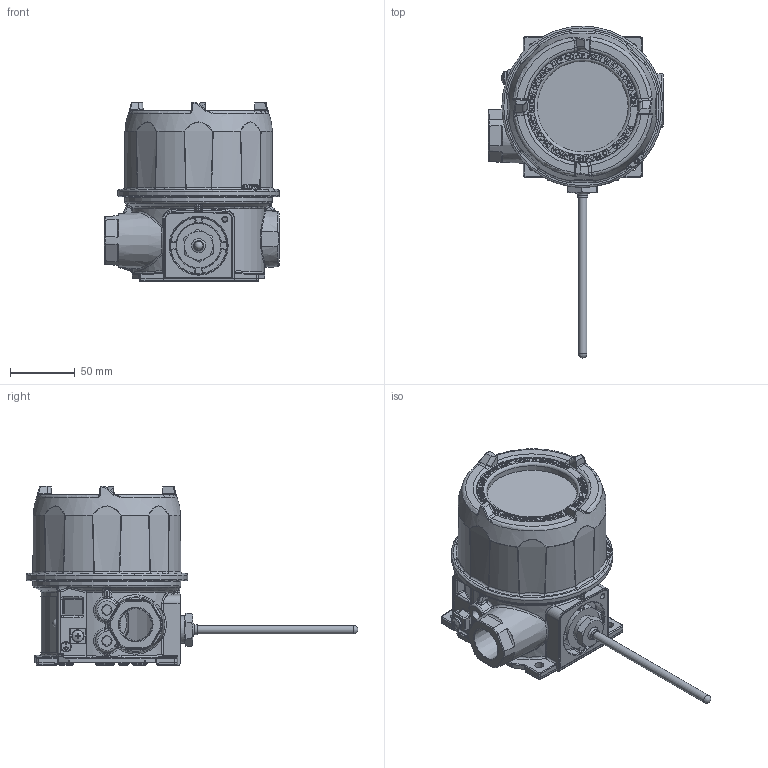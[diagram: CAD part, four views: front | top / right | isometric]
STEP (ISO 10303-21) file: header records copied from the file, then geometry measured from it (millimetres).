
FILE_DESCRIPTION (( 'STEP AP214' ), '1' );
FILE_NAME ('2SLP47_48_49_TL2_V7.STEP', '2025-03-13T17:34:02', ( '' ), ( '' ), 'SwSTEP 2.0', 'SolidWorks 2023', '' );
FILE_SCHEMA (( 'AUTOMOTIVE_DESIGN' ));
Length unit declared in the file: inch
Products named in the file (1): 2SLP47_48_49_TL2_V7
Bounding box: 135 x 256.02 x 138.33 mm (x, y, z)
Surface area: 101747.2 mm2 (no closed solid volume)
Topology: 0 solids, 19 shells, 1467 faces, 4691 edges, 3022 vertices
Faces by surface type: plane 590, bspline 402, cylinder 175, torus 171, cone 105, sphere 24
Full cylindrical faces by diameter (mm): 3.3 x1, 6.426 x1, 7.722 x1, 9.5 x1, 70.104 x1, 114.046 x1, 124.714 x1
Entity records: 74271 total; most frequent: CARTESIAN_POINT 37606, ORIENTED_EDGE 7629, DIRECTION 6479, EDGE_CURVE 4572, VERTEX_POINT 2995, VECTOR 2439, LINE 2439, AXIS2_PLACEMENT_3D 2020
